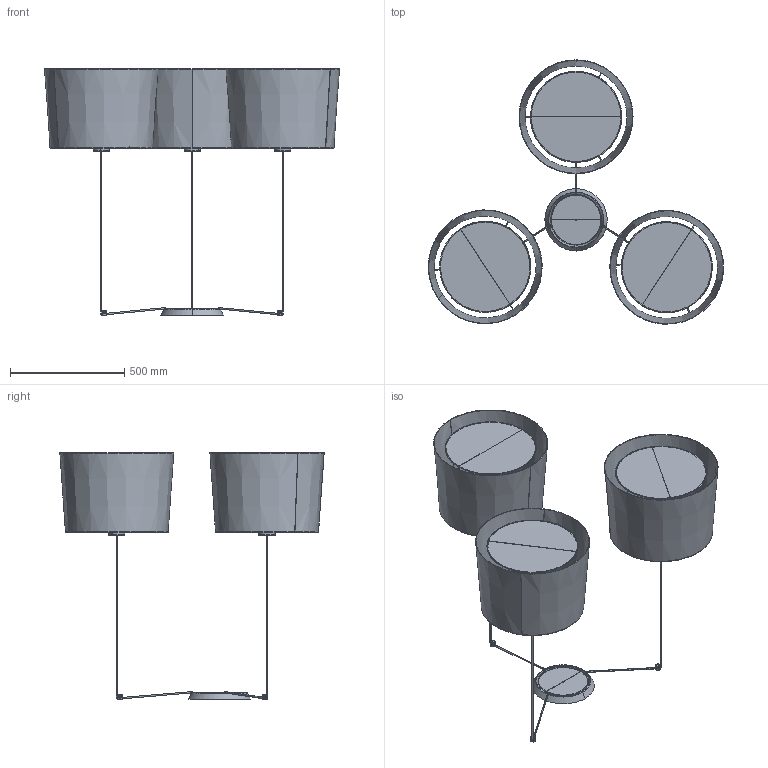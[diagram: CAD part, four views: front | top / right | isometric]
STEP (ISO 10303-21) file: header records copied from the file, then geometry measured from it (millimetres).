
FILE_DESCRIPTION(/* description */ (''),/* implementation_level */ '2;1');
FILE_NAME(/* name */ 'C:\Users\Franco Sartori E\Documents\FARO\DUPLICADO\Modelos\01_Digitalizados\2021\0_MAMBO_SAMBA_CONGA\03_Publicación\64314-54-3L.stp',/* time_stamp */ '2021-02-19T10:05:29+01:00',/* author */ ('Franco Sartori E'),/* organization */ (''),/* preprocessor_version */ 'ST-DEVELOPER v18.1',/* originating_system */ 'AutoCAD Mechanical',/* authorisation */ '');
FILE_SCHEMA (('AUTOMOTIVE_DESIGN { 1 0 10303 214 3 1 1 }'));
Length unit declared in the file: millimetre
Products named in the file (5): Product; CANOPY_3 - 68603-407759-_3D_; CONGA_FMA - LH-408002-_3D_; CONGA_FMA - LH-408005-_3D_; CONGA_FMA - LH-408008-_3D_
Assembly tree (4 placements, depth 2):
  Product
    CANOPY_3 - 68603-407759-_3D_
    CONGA_FMA - LH-408002-_3D_
    CONGA_FMA - LH-408005-_3D_
    CONGA_FMA - LH-408008-_3D_
Bounding box: 1295.06 x 1159.39 x 1082.46 mm (x, y, z)
Volume: 3850299.6 mm3; surface area: 7654308.1 mm2
Topology: 65 solids, 65 shells, 799 faces, 1766 edges, 1025 vertices
Faces by surface type: cylinder 309, plane 280, torus 120, cone 90
Entity records: 31953 total; most frequent: CARTESIAN_POINT 14643, DIRECTION 3574, ORIENTED_EDGE 3484, EDGE_CURVE 1742, AXIS2_PLACEMENT_3D 1449, VERTEX_POINT 1025, EDGE_LOOP 869, FACE_OUTER_BOUND 799
